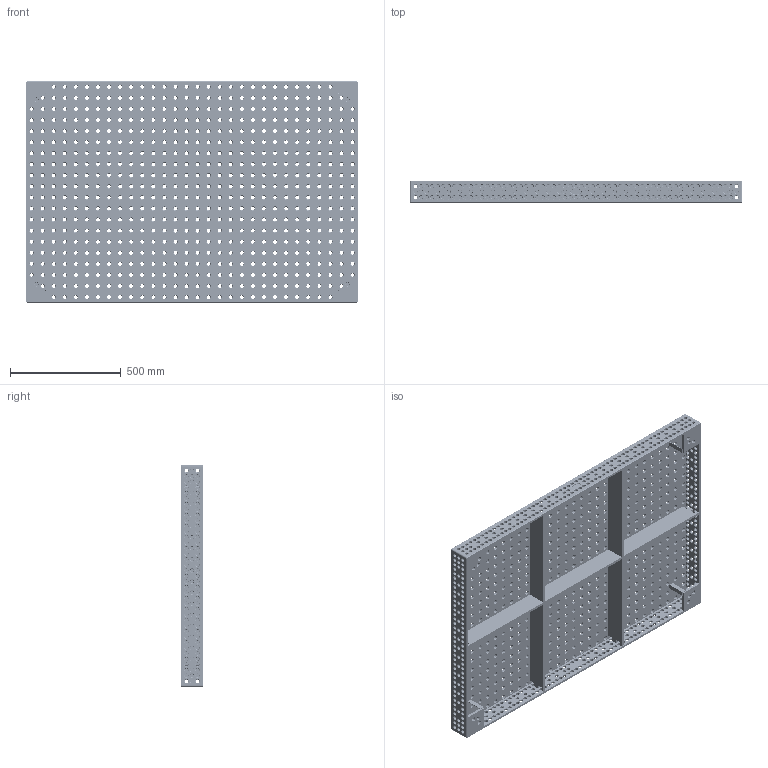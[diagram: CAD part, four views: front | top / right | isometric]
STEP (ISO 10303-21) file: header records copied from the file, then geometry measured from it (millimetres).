
FILE_DESCRIPTION (( 'STEP AP203' ), '1' );
FILE_NAME ('160035.X7D.T1 - 16003133_16003133_16003134_16001991_______.step', '2022-06-07T13:17:22', ( '' ), ( '' ), 'SwSTEP 2.0', 'SolidWorks 2020', '' );
FILE_SCHEMA (( 'CONFIG_CONTROL_DESIGN' ));
Products named in the file (1): 160035.X7D.T1 - 16003133_16003133_16003134_16001991_______
Bounding box: 1500 x 100 x 1000 mm (x, y, z)
Volume: 24274020.2 mm3; surface area: 4716615.5 mm2
Topology: 1 solids, 1 shells, 6806 faces, 15976 edges, 9160 vertices
Faces by surface type: cone 2252, cylinder 2240, torus 2204, plane 102, bspline 8
Entity records: 201485 total; most frequent: DIRECTION 40698, CARTESIAN_POINT 33183, ORIENTED_EDGE 31952, AXIS2_PLACEMENT_3D 17939, EDGE_CURVE 15976, CIRCLE 11140, VERTEX_POINT 9160, EDGE_LOOP 9050
